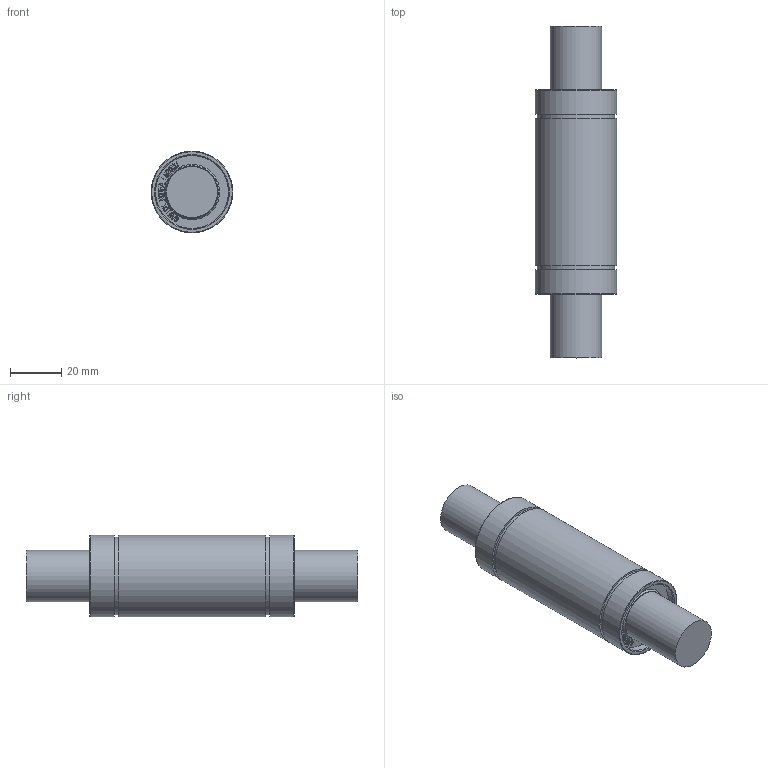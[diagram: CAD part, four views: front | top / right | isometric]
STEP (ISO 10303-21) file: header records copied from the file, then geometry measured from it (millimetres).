
FILE_DESCRIPTION(/* description */ (''),/* implementation_level */ '2;1');
FILE_NAME(/* name */ 'W:\(01) 2024년 홈페이지 CAD파일 최신화\LME_L\IPT\LME20LUU.stp',/* time_stamp */ '2025-01-25T09:36:05+09:00',/* author */ ('서우현'),/* organization */ (''),/* preprocessor_version */ 'ST-DEVELOPER v17.2',/* originating_system */ 'Autodesk Inventor 2019',/* authorisation */ '');
FILE_SCHEMA (('AUTOMOTIVE_DESIGN { 1 0 10303 214 3 1 1 }'));
Length unit declared in the file: millimetre
Products named in the file (1): LM5
Bounding box: 32 x 130 x 32 mm (x, y, z)
Volume: 77779.7 mm3; surface area: 13998.8 mm2
Topology: 1 solids, 1 shells, 833 faces, 2353 edges, 1576 vertices
Faces by surface type: bspline 592, plane 226, cylinder 9, cone 4, torus 2
Full cylindrical faces by diameter (mm): 20 x2, 28.5 x2, 30.3 x2, 32 x3
Entity records: 28487 total; most frequent: CARTESIAN_POINT 10091, ORIENTED_EDGE 4706, EDGE_CURVE 2353, DIRECTION 1707, VERTEX_POINT 1576, B_SPLINE_CURVE_WITH_KNOTS 1184, LINE 1115, VECTOR 1115
